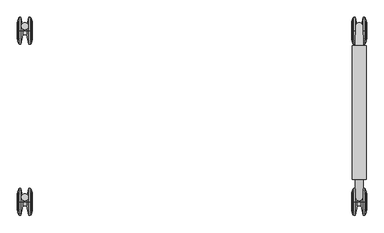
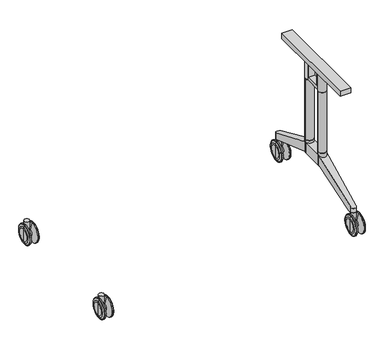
"""IFC4 building model written with IfcOpenShell, lengths in millimetres: furniture geometry, Furniture_Wilkhahn_614-00_TimetableShift : TIMETABLE SHIFT 614/00 1800L x 0900W."""

from ifc_helpers import new_model, si_unit, point, frame, frame_2d, origin, place, context, project, spatial, polyline, circle_curve, ellipse_curve, trimmed, segment, composite_curve, outline, extrude, source, transform, mapped, element, save
from ifc_brep_helpers import plane_surface, cylinder_surface, revolved_surface, advanced_brep


def furniture_f0da9923(model_context):
    return source(origin(), model_context, "Body", "SolidModel", [
        advanced_brep(
        [(652.500346, 204.1135107, 49.9999988), (652.500346, 204.1135107, 19.8683152), (652.500346, 204.1135107, 80.1316828), (597.5003238, 204.1135107, 19.8683152), (597.5003238, 204.1135107, 49.9999988), (597.5003238, 204.1135107, 80.1316828), (601.8165382, 204.1135107, 2.051318), (599.0398166, 204.1135107, 10.381507), (599.0398166, 204.1135107, 89.6184911), (601.8165382, 204.1135107, 97.9486801), (609.500318, 204.1135107, -1.2e-06), (604.6625889, 204.1135107, -1.2e-06), (604.6625889, 204.1135107, 99.9999992), (609.500318, 204.1135107, 99.9999992), (617.5003021, 204.1135107, 35.0000003), (617.5003021, 204.1135107, 64.9999978), (632.5003676, 204.1135107, 35.0000003), (632.5003676, 204.1135107, 64.9999978), (640.5003517, 204.1135107, -1.2e-06), (640.5003517, 204.1135107, 99.9999992), (645.3380808, 204.1135107, -1.2e-06), (645.3380808, 204.1135107, 99.9999992), (650.9608532, 204.1135107, 10.381507), (648.1841316, 204.1135107, 2.051318), (648.1841316, 204.1135107, 97.9486801), (650.9608532, 204.1135107, 89.6184911)],
        [
            (0, 1),
            (1, 2, circle_curve(frame((652.500346, 204.1135107, 49.999999), z_axis=(1.0, 0.0, 0.0), x_axis=(0.0, 0.0, 1.0)), 30.1316838)),
            (2, 0),
            (2, 1, circle_curve(frame((652.500346, 204.1135107, 49.999999), z_axis=(1.0, 0.0, 0.0), x_axis=(0.0, 0.0, 1.0)), 30.1316838)),
            (3, 4),
            (4, 5),
            (5, 3, circle_curve(frame((597.5003238, 204.1135107, 49.999999), z_axis=(-1.0, 0.0, 0.0), x_axis=(0.0, 0.0, 1.0)), 30.1316838)),
            (3, 5, circle_curve(frame((597.5003238, 204.1135107, 49.999999), z_axis=(-1.0, 0.0, 0.0), x_axis=(0.0, 0.0, 1.0)), 30.1316838)),
            (6, 7),
            (7, 8, circle_curve(frame((599.0398166, 204.1135107, 49.999999), z_axis=(1.0, 0.0, 0.0), x_axis=(0.0, 0.0, 1.0)), 39.618492)),
            (8, 9),
            (9, 6, circle_curve(frame((601.8165382, 204.1135107, 49.999999), z_axis=(-1.0, 0.0, 0.0), x_axis=(0.0, 0.0, 1.0)), 47.948681)),
            (8, 7, circle_curve(frame((599.0398166, 204.1135107, 49.999999), z_axis=(1.0, 0.0, 0.0), x_axis=(0.0, 0.0, 1.0)), 39.618492)),
            (6, 9, circle_curve(frame((601.8165382, 204.1135107, 49.999999), z_axis=(-1.0, 0.0, 0.0), x_axis=(0.0, 0.0, 1.0)), 47.948681)),
            (10, 11),
            (11, 12, circle_curve(frame((604.6625889, 204.1135107, 49.999999), z_axis=(1.0, 0.0, 0.0), x_axis=(0.0, 0.0, 1.0)), 50.0000002)),
            (12, 13),
            (13, 10, circle_curve(frame((609.500318, 204.1135107, 49.999999), z_axis=(-1.0, 0.0, 0.0), x_axis=(0.0, 0.0, 1.0)), 50.0000002)),
            (12, 11, circle_curve(frame((604.6625889, 204.1135107, 49.999999), z_axis=(1.0, 0.0, 0.0), x_axis=(0.0, 0.0, 1.0)), 50.0000002)),
            (10, 13, circle_curve(frame((609.500318, 204.1135107, 49.999999), z_axis=(-1.0, 0.0, 0.0), x_axis=(0.0, 0.0, 1.0)), 50.0000002)),
            (14, 10),
            (13, 15),
            (15, 14, circle_curve(frame((617.5003021, 204.1135107, 49.999999), z_axis=(-1.0, 0.0, 0.0), x_axis=(0.0, 0.0, 1.0)), 14.9999987)),
            (14, 15, circle_curve(frame((617.5003021, 204.1135107, 49.999999), z_axis=(-1.0, 0.0, 0.0), x_axis=(0.0, 0.0, 1.0)), 14.9999987)),
            (16, 14),
            (15, 17),
            (17, 16, circle_curve(frame((632.5003676, 204.1135107, 49.999999), z_axis=(-1.0, 0.0, 0.0), x_axis=(0.0, 0.0, 1.0)), 14.9999987)),
            (16, 17, circle_curve(frame((632.5003676, 204.1135107, 49.999999), z_axis=(-1.0, 0.0, 0.0), x_axis=(0.0, 0.0, 1.0)), 14.9999987)),
            (18, 16),
            (17, 19),
            (19, 18, circle_curve(frame((640.5003517, 204.1135107, 49.999999), z_axis=(-1.0, 0.0, 0.0), x_axis=(0.0, 0.0, 1.0)), 50.0000002)),
            (18, 19, circle_curve(frame((640.5003517, 204.1135107, 49.999999), z_axis=(-1.0, 0.0, 0.0), x_axis=(0.0, 0.0, 1.0)), 50.0000002)),
            (20, 18),
            (19, 21),
            (21, 20, circle_curve(frame((645.3380808, 204.1135107, 49.999999), z_axis=(-1.0, 0.0, 0.0), x_axis=(0.0, 0.0, 1.0)), 50.0000002)),
            (20, 21, circle_curve(frame((645.3380808, 204.1135107, 49.999999), z_axis=(-1.0, 0.0, 0.0), x_axis=(0.0, 0.0, 1.0)), 50.0000002)),
            (22, 23),
            (23, 24, circle_curve(frame((648.1841316, 204.1135107, 49.999999), z_axis=(1.0, 0.0, 0.0), x_axis=(0.0, 0.0, 1.0)), 47.948681)),
            (24, 25),
            (25, 22, circle_curve(frame((650.9608532, 204.1135107, 49.999999), z_axis=(-1.0, 0.0, 0.0), x_axis=(0.0, 0.0, 1.0)), 39.618492)),
            (24, 23, circle_curve(frame((648.1841316, 204.1135107, 49.999999), z_axis=(1.0, 0.0, 0.0), x_axis=(0.0, 0.0, 1.0)), 47.948681)),
            (22, 25, circle_curve(frame((650.9608532, 204.1135107, 49.999999), z_axis=(-1.0, 0.0, 0.0), x_axis=(0.0, 0.0, 1.0)), 39.618492)),
            (7, 3, circle_curve(frame((627.5003238, 204.1135107, 19.8683152), z_axis=(0.0, 1.0000000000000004, 0.0), x_axis=(-1.0000000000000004, 0.0, 0.0)), 30.0)),
            (5, 8, circle_curve(frame((627.5003238, 204.1135107, 80.1316828), z_axis=(0.0, 1.0000000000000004, 0.0), x_axis=(-1.0000000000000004, 0.0, 0.0)), 30.0)),
            (11, 6, circle_curve(frame((604.6625889, 204.1135107, 2.9999988), z_axis=(0.0, 1.0000000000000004, 0.0), x_axis=(-1.0000000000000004, 0.0, 0.0)), 3.0)),
            (9, 12, circle_curve(frame((604.6625889, 204.1135107, 96.9999992), z_axis=(0.0, 1.0000000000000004, 0.0), x_axis=(-1.0000000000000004, 0.0, 0.0)), 3.0)),
            (23, 20, circle_curve(frame((645.3380808, 204.1135107, 2.9999988), z_axis=(0.0, 1.0000000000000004, 0.0), x_axis=(-1.0000000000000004, 0.0, 0.0)), 3.0)),
            (21, 24, circle_curve(frame((645.3380808, 204.1135107, 96.9999992), z_axis=(0.0, 1.0000000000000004, 0.0), x_axis=(-1.0000000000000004, 0.0, 0.0)), 3.0)),
            (1, 22, circle_curve(frame((622.500346, 204.1135107, 19.8683152), z_axis=(0.0, 1.0000000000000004, 0.0), x_axis=(-1.0000000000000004, 0.0, 0.0)), 30.0)),
            (25, 2, circle_curve(frame((622.500346, 204.1135107, 80.1316828), z_axis=(0.0, 1.0000000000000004, 0.0), x_axis=(-1.0000000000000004, 0.0, 0.0)), 30.0)),
        ],
        [
            plane_surface(frame((652.500346, 204.1135107, 49.999999), z_axis=(1.0, 0.0, 0.0), x_axis=(0.0, 0.0, 1.0))),
            plane_surface(frame((597.5003238, 204.1135107, 49.999999), z_axis=(-1.0, 0.0, 0.0), x_axis=(0.0, 0.0, 1.0))),
            revolved_surface(polyline([(599.0398166, 204.1135107, 89.6184911), (601.8165382, 204.1135107, 97.9486801)]), (664.0660385, 204.1135107, 49.999999), (1.0000000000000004, 0.0, 0.0)),
            cylinder_surface(frame((664.0660385, 204.1135107, 49.999999), z_axis=(1.0000000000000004, 0.0, 0.0), x_axis=(0.0, 0.0, 1.0)), 50.0000002),
            revolved_surface(polyline([(609.500318, 204.1135107, 99.9999992), (617.5003021, 204.1135107, 64.9999978)]), (664.0660385, 204.1135107, 49.999999), (1.0000000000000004, 0.0, 0.0)),
            cylinder_surface(frame((664.0660385, 204.1135107, 49.999999), z_axis=(1.0000000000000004, 0.0, 0.0), x_axis=(0.0, 0.0, 1.0)), 14.9999987),
            revolved_surface(polyline([(632.5003676, 204.1135107, 64.9999978), (640.5003517, 204.1135107, 99.9999992)]), (664.0660385, 204.1135107, 49.999999), (1.0000000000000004, 0.0, 0.0)),
            revolved_surface(polyline([(648.1841316, 204.1135107, 97.9486801), (650.9608532, 204.1135107, 89.6184911)]), (664.0660385, 204.1135107, 49.999999), (1.0000000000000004, 0.0, 0.0)),
            revolved_surface(trimmed(ellipse_curve(frame((627.5003238, 204.1135107, 80.1316828), z_axis=(0.0, 1.0000000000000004, 0.0), x_axis=(-1.0000000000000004, 0.0, 0.0)), 30.0, 30.0), [point((597.5003238, 204.1135107, 80.1316828))], [point((599.0398166, 204.1135107, 89.6184911))], True, "CARTESIAN"), (664.0660385, 204.1135107, 49.999999), (1.0000000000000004, 0.0, 0.0)),
            revolved_surface(trimmed(ellipse_curve(frame((604.6625889, 204.1135107, 96.9999992), z_axis=(0.0, 1.0000000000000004, 0.0), x_axis=(-1.0000000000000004, 0.0, 0.0)), 3.0, 3.0), [point((601.8165382, 204.1135107, 97.9486801))], [point((604.6625889, 204.1135107, 99.9999992))], True, "CARTESIAN"), (664.0660385, 204.1135107, 49.999999), (1.0000000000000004, 0.0, 0.0)),
            revolved_surface(trimmed(ellipse_curve(frame((645.3380808, 204.1135107, 96.9999992), z_axis=(0.0, 1.0000000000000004, 0.0), x_axis=(-1.0000000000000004, 0.0, 0.0)), 3.0, 3.0), [point((645.3380808, 204.1135107, 99.9999992))], [point((648.1841316, 204.1135107, 97.9486801))], True, "CARTESIAN"), (664.0660385, 204.1135107, 49.999999), (1.0000000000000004, 0.0, 0.0)),
            revolved_surface(trimmed(ellipse_curve(frame((622.500346, 204.1135107, 80.1316828), z_axis=(0.0, 1.0000000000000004, 0.0), x_axis=(-1.0000000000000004, 0.0, 0.0)), 30.0, 30.0), [point((650.9608532, 204.1135107, 89.6184911))], [point((652.500346, 204.1135107, 80.1316828))], True, "CARTESIAN"), (664.0660385, 204.1135107, 49.999999), (1.0000000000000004, 0.0, 0.0)),
        ],
        [
            (0, [[1, 2, 3]]),
            (0, [[-3, 4, -1]]),
            (1, [[5, 6, 7]]),
            (1, [[-6, -5, 8]]),
            (2, [[9, 10, 11, 12]]),
            (2, [[-11, 13, -9, 14]]),
            (3, [[15, 16, 17, 18]]),
            (3, [[-17, 19, -15, 20]]),
            (4, [[21, -18, 22, 23]]),
            (4, [[-22, -20, -21, 24]]),
            (5, [[25, -23, 26, 27]]),
            (5, [[-26, -24, -25, 28]]),
            (6, [[29, -27, 30, 31]]),
            (6, [[-30, -28, -29, 32]]),
            (3, [[33, -31, 34, 35]]),
            (3, [[-34, -32, -33, 36]]),
            (7, [[37, 38, 39, 40]]),
            (7, [[-39, 41, -37, 42]]),
            (8, [[43, -7, 44, -10]]),
            (8, [[-44, -8, -43, -13]]),
            (9, [[45, -12, 46, -16]]),
            (9, [[-46, -14, -45, -19]]),
            (10, [[47, -35, 48, -38]]),
            (10, [[-48, -36, -47, -41]]),
            (11, [[49, -40, 50, -2]]),
            (11, [[-50, -42, -49, -4]]),
        ],
    ),
        extrude(outline(composite_curve([segment(trimmed(circle_curve(frame_2d((625.0003349, 221.5135103)), 13.1), [point((638.1003349, 221.5135103))], [point((611.9003349, 221.5135103))], False, "CARTESIAN"), True, "CONTINUOUS"), segment(trimmed(circle_curve(frame_2d((625.0003349, 221.5135103)), 13.1), [point((611.9003349, 221.5135103))], [point((638.1003349, 221.5135103))], False, "CARTESIAN"), True, "CONTINUOUS")], self_intersect=False)), frame((0.0, 0.0, 50.0), z_axis=(0.0, 0.0, 1.0), x_axis=(1.0, 0.0, 0.0)), (0.0, 0.0, 1.0), 55.0),
        advanced_brep(
        [(597.5003238, -436.9185854, 49.9999992), (597.5003238, -436.9185854, 80.1316828), (597.5003238, -436.9185854, 19.8683152), (652.500346, -436.9185854, 19.8683152), (652.500346, -436.9185854, 80.1316828), (652.500346, -436.9185854, 49.9999992), (648.1841316, -436.9185854, 2.051318), (648.1841316, -436.9185854, 97.9486801), (650.9608532, -436.9185854, 89.6184911), (650.9608532, -436.9185854, 10.381507), (640.5003517, -436.9185854, -1.2e-06), (640.5003517, -436.9185854, 99.9999992), (645.3380808, -436.9185854, 99.9999992), (645.3380808, -436.9185854, -1.2e-06), (632.5003676, -436.9185854, 35.0000003), (632.5003676, -436.9185854, 64.9999978), (617.5003021, -436.9185854, 35.0000003), (617.5003021, -436.9185854, 64.9999978), (609.500318, -436.9185854, -1.2e-06), (609.500318, -436.9185854, 99.9999992), (604.6625889, -436.9185854, -1.2e-06), (604.6625889, -436.9185854, 99.9999992), (599.0398166, -436.9185854, 10.381507), (599.0398166, -436.9185854, 89.6184911), (601.8165382, -436.9185854, 97.9486801), (601.8165382, -436.9185854, 2.051318)],
        [
            (0, 1),
            (1, 2, circle_curve(frame((597.5003238, -436.9185854, 49.999999), z_axis=(-1.0, 0.0, 0.0), x_axis=(0.0, 0.0, 1.0)), 30.1316838)),
            (2, 0),
            (2, 1, circle_curve(frame((597.5003238, -436.9185854, 49.999999), z_axis=(-1.0, 0.0, 0.0), x_axis=(0.0, 0.0, 1.0)), 30.1316838)),
            (3, 4, circle_curve(frame((652.500346, -436.9185854, 49.999999), z_axis=(1.0, 0.0, 0.0), x_axis=(0.0, 0.0, 1.0)), 30.1316838)),
            (4, 5),
            (5, 3),
            (4, 3, circle_curve(frame((652.500346, -436.9185854, 49.999999), z_axis=(1.0, 0.0, 0.0), x_axis=(0.0, 0.0, 1.0)), 30.1316838)),
            (6, 7, circle_curve(frame((648.1841316, -436.9185854, 49.999999), z_axis=(1.0, 0.0, 0.0), x_axis=(0.0, 0.0, 1.0)), 47.948681)),
            (7, 8),
            (8, 9, circle_curve(frame((650.9608532, -436.9185854, 49.999999), z_axis=(-1.0, 0.0, 0.0), x_axis=(0.0, 0.0, 1.0)), 39.618492)),
            (9, 6),
            (7, 6, circle_curve(frame((648.1841316, -436.9185854, 49.999999), z_axis=(1.0, 0.0, 0.0), x_axis=(0.0, 0.0, 1.0)), 47.948681)),
            (9, 8, circle_curve(frame((650.9608532, -436.9185854, 49.999999), z_axis=(-1.0, 0.0, 0.0), x_axis=(0.0, 0.0, 1.0)), 39.618492)),
            (10, 11, circle_curve(frame((640.5003517, -436.9185854, 49.999999), z_axis=(1.0, 0.0, 0.0), x_axis=(0.0, 0.0, 1.0)), 50.0000002)),
            (11, 12),
            (12, 13, circle_curve(frame((645.3380808, -436.9185854, 49.999999), z_axis=(-1.0, 0.0, 0.0), x_axis=(0.0, 0.0, 1.0)), 50.0000002)),
            (13, 10),
            (11, 10, circle_curve(frame((640.5003517, -436.9185854, 49.999999), z_axis=(1.0, 0.0, 0.0), x_axis=(0.0, 0.0, 1.0)), 50.0000002)),
            (13, 12, circle_curve(frame((645.3380808, -436.9185854, 49.999999), z_axis=(-1.0, 0.0, 0.0), x_axis=(0.0, 0.0, 1.0)), 50.0000002)),
            (14, 15, circle_curve(frame((632.5003676, -436.9185854, 49.999999), z_axis=(1.0, 0.0, 0.0), x_axis=(0.0, 0.0, 1.0)), 14.9999987)),
            (15, 11),
            (10, 14),
            (15, 14, circle_curve(frame((632.5003676, -436.9185854, 49.999999), z_axis=(1.0, 0.0, 0.0), x_axis=(0.0, 0.0, 1.0)), 14.9999987)),
            (16, 17, circle_curve(frame((617.5003021, -436.9185854, 49.999999), z_axis=(1.0, 0.0, 0.0), x_axis=(0.0, 0.0, 1.0)), 14.9999987)),
            (17, 15),
            (14, 16),
            (17, 16, circle_curve(frame((617.5003021, -436.9185854, 49.999999), z_axis=(1.0, 0.0, 0.0), x_axis=(0.0, 0.0, 1.0)), 14.9999987)),
            (18, 19, circle_curve(frame((609.500318, -436.9185854, 49.999999), z_axis=(1.0, 0.0, 0.0), x_axis=(0.0, 0.0, 1.0)), 50.0000002)),
            (19, 17),
            (16, 18),
            (19, 18, circle_curve(frame((609.500318, -436.9185854, 49.999999), z_axis=(1.0, 0.0, 0.0), x_axis=(0.0, 0.0, 1.0)), 50.0000002)),
            (20, 21, circle_curve(frame((604.6625889, -436.9185854, 49.999999), z_axis=(1.0, 0.0, 0.0), x_axis=(0.0, 0.0, 1.0)), 50.0000002)),
            (21, 19),
            (18, 20),
            (21, 20, circle_curve(frame((604.6625889, -436.9185854, 49.999999), z_axis=(1.0, 0.0, 0.0), x_axis=(0.0, 0.0, 1.0)), 50.0000002)),
            (22, 23, circle_curve(frame((599.0398166, -436.9185854, 49.999999), z_axis=(1.0, 0.0, 0.0), x_axis=(0.0, 0.0, 1.0)), 39.618492)),
            (23, 24),
            (24, 25, circle_curve(frame((601.8165382, -436.9185854, 49.999999), z_axis=(-1.0, 0.0, 0.0), x_axis=(0.0, 0.0, 1.0)), 47.948681)),
            (25, 22),
            (23, 22, circle_curve(frame((599.0398166, -436.9185854, 49.999999), z_axis=(1.0, 0.0, 0.0), x_axis=(0.0, 0.0, 1.0)), 39.618492)),
            (25, 24, circle_curve(frame((601.8165382, -436.9185854, 49.999999), z_axis=(-1.0, 0.0, 0.0), x_axis=(0.0, 0.0, 1.0)), 47.948681)),
            (8, 4, circle_curve(frame((622.500346, -436.9185854, 80.1316828), z_axis=(0.0, 1.0, 0.0), x_axis=(1.0, 0.0, 0.0)), 30.0)),
            (3, 9, circle_curve(frame((622.500346, -436.9185854, 19.8683152), z_axis=(0.0, 1.0, 0.0), x_axis=(1.0, 0.0, 0.0)), 30.0)),
            (12, 7, circle_curve(frame((645.3380808, -436.9185854, 96.9999992), z_axis=(0.0, 1.0, 0.0), x_axis=(1.0, 0.0, 0.0)), 3.0)),
            (6, 13, circle_curve(frame((645.3380808, -436.9185854, 2.9999988), z_axis=(0.0, 1.0, 0.0), x_axis=(1.0, 0.0, 0.0)), 3.0)),
            (24, 21, circle_curve(frame((604.6625889, -436.9185854, 96.9999992), z_axis=(0.0, 1.0, 0.0), x_axis=(1.0, 0.0, 0.0)), 3.0)),
            (20, 25, circle_curve(frame((604.6625889, -436.9185854, 2.9999988), z_axis=(0.0, 1.0, 0.0), x_axis=(1.0, 0.0, 0.0)), 3.0)),
            (1, 23, circle_curve(frame((627.5003238, -436.9185854, 80.1316828), z_axis=(0.0, 1.0, 0.0), x_axis=(1.0, 0.0, 0.0)), 30.0)),
            (22, 2, circle_curve(frame((627.5003238, -436.9185854, 19.8683152), z_axis=(0.0, 1.0, 0.0), x_axis=(1.0, 0.0, 0.0)), 30.0)),
        ],
        [
            plane_surface(frame((597.5003238, -436.9185854, 49.999999), z_axis=(-1.0, 0.0, 0.0), x_axis=(0.0, 0.0, 1.0))),
            plane_surface(frame((652.500346, -436.9185854, 49.999999), z_axis=(1.0, 0.0, 0.0), x_axis=(0.0, 0.0, 1.0))),
            revolved_surface(polyline([(650.9608532, -436.9185854, 89.6184911), (648.1841316, -436.9185854, 97.9486801)]), (585.9346312, -436.9185854, 49.999999), (-1.0, 0.0, 0.0)),
            cylinder_surface(frame((585.9346312, -436.9185854, 49.999999), z_axis=(-1.0, 0.0, 0.0), x_axis=(0.0, 0.0, 1.0)), 50.0000002),
            revolved_surface(polyline([(640.5003517, -436.9185854, 99.9999992), (632.5003676, -436.9185854, 64.9999978)]), (585.9346312, -436.9185854, 49.999999), (-1.0, 0.0, 0.0)),
            cylinder_surface(frame((585.9346312, -436.9185854, 49.999999), z_axis=(-1.0, 0.0, 0.0), x_axis=(0.0, 0.0, 1.0)), 14.9999987),
            revolved_surface(polyline([(617.5003021, -436.9185854, 64.9999978), (609.500318, -436.9185854, 99.9999992)]), (585.9346312, -436.9185854, 49.999999), (-1.0, 0.0, 0.0)),
            revolved_surface(polyline([(601.8165382, -436.9185854, 97.9486801), (599.0398166, -436.9185854, 89.6184911)]), (585.9346312, -436.9185854, 49.999999), (-1.0, 0.0, 0.0)),
            revolved_surface(trimmed(ellipse_curve(frame((622.500346, -436.9185854, 80.1316828), z_axis=(0.0, -1.0, 0.0), x_axis=(1.0, 0.0, 0.0)), 30.0, 30.0), [point((652.500346, -436.9185854, 80.1316828))], [point((650.9608532, -436.9185854, 89.6184911))], True, "CARTESIAN"), (585.9346312, -436.9185854, 49.999999), (-1.0, 0.0, 0.0)),
            revolved_surface(trimmed(ellipse_curve(frame((645.3380808, -436.9185854, 96.9999992), z_axis=(0.0, -1.0, 0.0), x_axis=(1.0, 0.0, 0.0)), 3.0, 3.0), [point((648.1841316, -436.9185854, 97.9486801))], [point((645.3380808, -436.9185854, 99.9999992))], True, "CARTESIAN"), (585.9346312, -436.9185854, 49.999999), (-1.0, 0.0, 0.0)),
            revolved_surface(trimmed(ellipse_curve(frame((604.6625889, -436.9185854, 96.9999992), z_axis=(0.0, -1.0, 0.0), x_axis=(1.0, 0.0, 0.0)), 3.0, 3.0), [point((604.6625889, -436.9185854, 99.9999992))], [point((601.8165382, -436.9185854, 97.9486801))], True, "CARTESIAN"), (585.9346312, -436.9185854, 49.999999), (-1.0, 0.0, 0.0)),
            revolved_surface(trimmed(ellipse_curve(frame((627.5003238, -436.9185854, 80.1316828), z_axis=(0.0, -1.0, 0.0), x_axis=(1.0, 0.0, 0.0)), 30.0, 30.0), [point((599.0398166, -436.9185854, 89.6184911))], [point((597.5003238, -436.9185854, 80.1316828))], True, "CARTESIAN"), (585.9346312, -436.9185854, 49.999999), (-1.0, 0.0, 0.0)),
        ],
        [
            (0, [[1, 2, 3]]),
            (0, [[-3, 4, -1]]),
            (1, [[5, 6, 7]]),
            (1, [[8, -7, -6]]),
            (2, [[9, 10, 11, 12]]),
            (2, [[13, -12, 14, -10]]),
            (3, [[15, 16, 17, 18]]),
            (3, [[19, -18, 20, -16]]),
            (4, [[21, 22, -15, 23]]),
            (4, [[24, -23, -19, -22]]),
            (5, [[25, 26, -21, 27]]),
            (5, [[28, -27, -24, -26]]),
            (6, [[29, 30, -25, 31]]),
            (6, [[32, -31, -28, -30]]),
            (3, [[33, 34, -29, 35]]),
            (3, [[36, -35, -32, -34]]),
            (7, [[37, 38, 39, 40]]),
            (7, [[41, -40, 42, -38]]),
            (8, [[-11, 43, -5, 44]]),
            (8, [[-14, -44, -8, -43]]),
            (9, [[-17, 45, -9, 46]]),
            (9, [[-20, -46, -13, -45]]),
            (10, [[-39, 47, -33, 48]]),
            (10, [[-42, -48, -36, -47]]),
            (11, [[-2, 49, -37, 50]]),
            (11, [[-4, -50, -41, -49]]),
        ],
    ),
        extrude(outline(composite_curve([segment(trimmed(circle_curve(frame_2d((625.0003349, -419.5185858)), 13.1), [point((611.9003349, -419.5185858))], [point((638.1003349, -419.5185858))], False, "CARTESIAN"), True, "CONTINUOUS"), segment(trimmed(circle_curve(frame_2d((625.0003349, -419.5185858)), 13.1), [point((638.1003349, -419.5185858))], [point((611.9003349, -419.5185858))], False, "CARTESIAN"), True, "CONTINUOUS")], self_intersect=False)), frame((0.0, 0.0, 50.0), z_axis=(0.0, 0.0, 1.0), x_axis=(1.0, 0.0, 0.0)), (0.0, 0.0, 1.0), 55.0),
        extrude(outline(composite_curve([segment(trimmed(circle_curve(frame_2d((625.0, -154.0488451)), 20.0), [point((605.0, -154.0488451))], [point((645.0, -154.0488451))], False, "CARTESIAN"), True, "CONTINUOUS"), segment(trimmed(circle_curve(frame_2d((625.0, -154.0488451)), 20.0), [point((645.0, -154.0488451))], [point((605.0, -154.0488451))], False, "CARTESIAN"), True, "CONTINUOUS")], self_intersect=False)), frame((0.0, 0.0, 193.3080085), z_axis=(0.0, 0.0, 1.0), x_axis=(1.0, 0.0, 0.0)), (0.0, 0.0, 1.0), 68.8536941),
        extrude(outline(composite_curve([segment(trimmed(circle_curve(frame_2d((625.0, -44.0488461)), 20.0), [point((605.0, -44.0488461))], [point((645.0, -44.0488461))], False, "CARTESIAN"), True, "CONTINUOUS"), segment(trimmed(circle_curve(frame_2d((625.0, -44.0488461)), 20.0), [point((645.0, -44.0488461))], [point((605.0, -44.0488461))], False, "CARTESIAN"), True, "CONTINUOUS")], self_intersect=False)), frame((0.0, 0.0, 193.3080085), z_axis=(0.0, 0.0, 1.0), x_axis=(1.0, 0.0, 0.0)), (0.0, 0.0, 1.0), 68.8536941),
        extrude(outline(composite_curve([segment(trimmed(circle_curve(frame_2d((625.0, -154.0488451)), 20.0), [point((605.0, -154.0488451))], [point((645.0, -154.0488451))], False, "CARTESIAN"), True, "CONTINUOUS"), segment(trimmed(circle_curve(frame_2d((625.0, -154.0488451)), 20.0), [point((645.0, -154.0488451))], [point((605.0, -154.0488451))], False, "CARTESIAN"), True, "CONTINUOUS")], self_intersect=False)), frame((0.0, 0.0, 262.1617027), z_axis=(0.0, 0.0, 1.0), x_axis=(1.0, 0.0, 0.0)), (0.0, 0.0, 1.0), 317.8382973),
        extrude(outline(composite_curve([segment(trimmed(circle_curve(frame_2d((625.0, -44.0488461)), 20.0), [point((605.0, -44.0488461))], [point((645.0, -44.0488461))], False, "CARTESIAN"), True, "CONTINUOUS"), segment(trimmed(circle_curve(frame_2d((625.0, -44.0488461)), 20.0), [point((645.0, -44.0488461))], [point((605.0, -44.0488461))], False, "CARTESIAN"), True, "CONTINUOUS")], self_intersect=False)), frame((0.0, 0.0, 262.1617027), z_axis=(0.0, 0.0, 1.0), x_axis=(1.0, 0.0, 0.0)), (0.0, 0.0, 1.0), 317.8382973),
        extrude(outline(polyline([(651.0000118, 147.9511612), (651.0000118, -352.0488426), (598.9999882, -352.0488426), (598.9999882, 147.9511612), (651.0000118, 147.9511612)])), frame((0.0, 0.0, 676.0000168), z_axis=(0.0, 0.0, 1.0), x_axis=(1.0, 0.0, 0.0)), (0.0, 0.0, 1.0), 27.9999624),
        advanced_brep(
        [(610.0001238, -140.8200278, 676.0000168), (640.0001095, -140.8201331, 676.0000168), (640.0001095, -134.0488456, 676.0000168), (610.0001238, -134.0488456, 676.0000168), (640.0001095, -57.2775581, 676.0000168), (610.0001238, -57.2776634, 676.0000168), (610.0001238, -64.0488456, 676.0000168), (640.0001095, -64.0488456, 676.0000168), (610.0001238, -57.2776634, 580.0), (640.0001095, -57.2775581, 580.0), (640.0001095, -140.8201331, 580.0), (610.0001238, -140.8200278, 580.0), (610.0001238, -134.0488456, 598.0000176), (610.0001238, -64.0488456, 598.0000176), (640.0001095, -64.0488456, 598.0000176), (640.0001095, -134.0488456, 598.0000176)],
        [
            (0, 1, circle_curve(frame((625.0000702, -154.0488451, 676.0000168), z_axis=(0.0, 0.0, 1.0), x_axis=(1.0, 0.0, 0.0)), 20.0)),
            (1, 2),
            (2, 3),
            (3, 0),
            (4, 5, circle_curve(frame((625.0000702, -44.0488461, 676.0000168), z_axis=(0.0, 0.0, 1.0), x_axis=(1.0, 0.0, 0.0)), 20.0)),
            (5, 6),
            (6, 7),
            (7, 4),
            (8, 9, circle_curve(frame((625.0000702, -44.0488461, 580.0), z_axis=(0.0, 0.0, -1.0), x_axis=(1.0, 0.0, 0.0)), 20.0)),
            (9, 10),
            (10, 11, circle_curve(frame((625.0000702, -154.0488451, 580.0), z_axis=(0.0, 0.0, -1.0), x_axis=(1.0, 0.0, 0.0)), 20.0)),
            (11, 8),
            (11, 0),
            (3, 12),
            (12, 13),
            (13, 6),
            (5, 8),
            (10, 1),
            (9, 4),
            (7, 14),
            (14, 15),
            (15, 2),
            (15, 12),
            (14, 13),
        ],
        [
            plane_surface(frame((610.0001238, -140.8200278, 676.0000168), z_axis=(0.0, 0.0, 1.0), x_axis=(0.0, -1.0, 0.0))),
            plane_surface(frame((610.0001238, -140.8200278, 580.0), z_axis=(0.0, 0.0, -1.0), x_axis=(0.0, 1.0, 0.0))),
            plane_surface(frame((610.0001238, -57.2776634, 676.0000168), z_axis=(-1.0, 0.0, 0.0), x_axis=(0.0, 0.0, -1.0))),
            cylinder_surface(frame((625.0000702, -154.0488451, 580.0), z_axis=(0.0, 0.0, 1.0), x_axis=(1.0, 0.0, 0.0)), 20.0),
            plane_surface(frame((640.0001095, -140.8201331, 676.0000168), z_axis=(1.0, 0.0, 0.0), x_axis=(0.0, 0.0, -1.0))),
            cylinder_surface(frame((625.0000702, -44.0488461, 580.0), z_axis=(0.0, 0.0, 1.0), x_axis=(1.0, 0.0, 0.0)), 20.0),
            plane_surface(frame((640.0001095, -134.0488456, 676.0000168), z_axis=(0.0, 1.0, 0.0), x_axis=(-1.0, 0.0, 0.0))),
            plane_surface(frame((640.0001095, -134.0488456, 598.0000176), z_axis=(0.0, 0.0, 1.0), x_axis=(-1.0, 0.0, 0.0))),
            plane_surface(frame((640.0001095, -64.0488456, 598.0000176), z_axis=(0.0, -1.0, 0.0), x_axis=(-1.0, 0.0, 0.0))),
        ],
        [
            (0, [[1, 2, 3, 4]]),
            (0, [[5, 6, 7, 8]]),
            (1, [[9, 10, 11, 12]]),
            (2, [[-12, 13, -4, 14, 15, 16, -6, 17]]),
            (3, [[-1, -13, -11, 18]]),
            (4, [[-10, 19, -8, 20, 21, 22, -2, -18]]),
            (5, [[-5, -19, -9, -17]]),
            (6, [[23, -14, -3, -22]]),
            (7, [[-23, -21, 24, -15]]),
            (8, [[-24, -20, -7, -16]]),
        ],
    ),
        advanced_brep(
        [(638.4728951, 208.4135103, 105.0), (611.527103, 208.4135103, 105.0), (611.8737706, 221.8222582, 105.0), (638.1262294, 221.8222564, 105.0), (611.8737706, 221.8222582, 133.4205559), (604.9999818, -44.0488461, 248.3080085), (644.9999818, -44.0488461, 248.3080085), (638.1262294, 221.8222564, 133.4205567), (644.7999588, -36.3121196, 193.3080085), (605.2000059, -36.3121196, 193.3080085), (638.1262294, -419.9199475, 133.4205567), (644.9999818, -154.0488451, 248.3080085), (604.9999818, -154.0488451, 248.3080085), (611.8737706, -419.9199493, 133.4205559), (638.1262294, -419.9199475, 105.0), (638.4728951, -406.5112014, 105.0), (644.7999588, -161.7855715, 193.3080085), (644.9999818, -154.0488451, 193.3080085), (611.8737706, -419.9199493, 105.0), (604.9999818, -154.0488451, 193.3080085), (605.2000059, -161.7855715, 193.3080085), (611.527103, -406.5112014, 105.0), (604.9999818, -44.0488461, 193.3080085), (644.9999818, -44.0488461, 193.3080085)],
        [
            (0, 1),
            (1, 2),
            (2, 3, circle_curve(frame((625.0, 221.4828948, 105.0), z_axis=(0.0, 0.0, -1.0), x_axis=(1.0, 0.0, 0.0)), 13.1306156)),
            (3, 0),
            (4, 5),
            (5, 6),
            (6, 7),
            (7, 4, ellipse_curve(frame((625.0, 221.4828948, 133.5672007), z_axis=(0.0, 0.3966672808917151, 0.9179624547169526), x_axis=(0.0, 0.9179624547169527, -0.39666728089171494)), 14.3040878, 13.1306156)),
            (0, 8),
            (8, 9),
            (9, 1),
            (10, 11),
            (11, 12),
            (12, 13),
            (13, 10, ellipse_curve(frame((625.0, -419.5805859, 133.5672007), z_axis=(0.0, -0.3966672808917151, 0.9179624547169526), x_axis=(0.0, -0.9179624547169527, -0.39666728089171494)), 14.3040878, 13.1306156)),
            (10, 14),
            (14, 15),
            (15, 16),
            (16, 17),
            (17, 11),
            (13, 18),
            (18, 14, circle_curve(frame((625.0, -419.5805859, 105.0), z_axis=(0.0, 0.0, 1.0), x_axis=(1.0, 0.0, 0.0)), 13.1306156)),
            (12, 19),
            (19, 20),
            (20, 21),
            (21, 18),
            (4, 2),
            (9, 22),
            (22, 5),
            (7, 3),
            (6, 23),
            (23, 8),
            (21, 15),
            (20, 16),
            (11, 6),
            (5, 12),
            (22, 19),
            (17, 23),
        ],
        [
            plane_surface(frame((646.3794585, 208.4135103, 105.0), z_axis=(0.0, 0.0, -1.0), x_axis=(-1.0, 0.0, 0.0))),
            plane_surface(frame((646.3794585, 235.9511544, 127.3152182), z_axis=(0.0, 0.3966672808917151, 0.9179624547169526), x_axis=(-1.0, 0.0, 0.0))),
            plane_surface(frame((646.3794585, -36.3121196, 193.3080085), z_axis=(0.0, -0.3394229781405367, -0.9406338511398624), x_axis=(-1.0, 0.0, 0.0))),
            plane_surface(frame((646.3794585, -154.0488451, 248.3080085), z_axis=(0.0, -0.3966672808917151, 0.9179624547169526), x_axis=(-1.0, 0.0, 0.0))),
            plane_surface(frame((644.9999818, -154.0488451, 249.0000084), z_axis=(0.9996659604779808, -0.025845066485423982, 0.0), x_axis=(0.0, 0.0, -1.0))),
            cylinder_surface(frame((625.0, -419.5805859, 90.0000025), z_axis=(0.0, 0.0, -1.0), x_axis=(1.0, 0.0, 0.0)), 13.1306156),
            plane_surface(frame((611.8737706, -419.9199493, 249.0000084), z_axis=(-0.9996659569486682, -0.025845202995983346, 0.0), x_axis=(0.0, 0.0, -1.0))),
            plane_surface(frame((604.9999818, -44.0488461, 249.0000084), z_axis=(-0.9996659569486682, 0.025845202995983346, 0.0), x_axis=(0.0, 0.0, -1.0))),
            cylinder_surface(frame((625.0, 221.4828948, 0.0), z_axis=(0.0, 0.0, -1.0), x_axis=(1.0, 0.0, 0.0)), 13.1306156),
            plane_surface(frame((638.1262294, 221.8222564, 249.0000084), z_axis=(0.9996659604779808, 0.025845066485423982, 0.0), x_axis=(0.0, 0.0, -1.0))),
            plane_surface(frame((646.3794585, -434.0488456, 105.0), z_axis=(0.0, 0.0, -1.0), x_axis=(-1.0, 0.0, 0.0))),
            plane_surface(frame((646.3794585, -406.5112014, 105.0), z_axis=(0.0, 0.3394229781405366, -0.9406338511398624), x_axis=(-1.0, 0.0, 0.0))),
            plane_surface(frame((644.9999818, -44.0488461, 248.3080085), z_axis=(0.0, 0.0, 1.0), x_axis=(0.0, 1.0, 0.0))),
            plane_surface(frame((604.9999818, -44.0488461, 248.3080085), z_axis=(-1.0, 0.0, 0.0), x_axis=(0.0, 0.0, -1.0))),
            plane_surface(frame((644.9999818, -154.0488451, 248.3080085), z_axis=(1.0, 0.0, 0.0), x_axis=(0.0, 0.0, -1.0))),
            plane_surface(frame((646.3794585, -44.0488461, 193.3080085), z_axis=(0.0, 0.0, -1.0), x_axis=(-1.0, 0.0, 0.0))),
        ],
        [
            (0, [[1, 2, 3, 4]]),
            (1, [[5, 6, 7, 8]]),
            (2, [[-1, 9, 10, 11]]),
            (3, [[12, 13, 14, 15]]),
            (4, [[16, 17, 18, 19, 20, -12]]),
            (5, [[-16, -15, 21, 22]]),
            (6, [[-21, -14, 23, 24, 25, 26]]),
            (7, [[27, -2, -11, 28, 29, -5]]),
            (8, [[-27, -8, 30, -3]]),
            (9, [[-30, -7, 31, 32, -9, -4]]),
            (10, [[33, -17, -22, -26]]),
            (11, [[-33, -25, 34, -18]]),
            (12, [[35, -6, 36, -13]]),
            (13, [[-36, -29, 37, -23]]),
            (14, [[-35, -20, 38, -31]]),
            (15, [[-10, -32, -38, -19, -34, -24, -37, -28]]),
        ],
    ),
        advanced_brep(
        [(-597.499654, 204.1135107, 49.9999988), (-597.499654, 204.1135107, 19.8683152), (-597.499654, 204.1135107, 80.1316828), (-652.4996762, 204.1135107, 19.8683152), (-652.4996762, 204.1135107, 49.9999988), (-652.4996762, 204.1135107, 80.1316828), (-648.1834618, 204.1135107, 2.051318), (-650.9601834, 204.1135107, 10.381507), (-650.9601834, 204.1135107, 89.6184911), (-648.1834618, 204.1135107, 97.9486801), (-640.499682, 204.1135107, -1.2e-06), (-645.3374111, 204.1135107, -1.2e-06), (-645.3374111, 204.1135107, 99.9999992), (-640.499682, 204.1135107, 99.9999992), (-632.4996979, 204.1135107, 35.0000003), (-632.4996979, 204.1135107, 64.9999978), (-617.4996324, 204.1135107, 35.0000003), (-617.4996324, 204.1135107, 64.9999978), (-609.4996483, 204.1135107, -1.2e-06), (-609.4996483, 204.1135107, 99.9999992), (-604.6619192, 204.1135107, -1.2e-06), (-604.6619192, 204.1135107, 99.9999992), (-599.0391468, 204.1135107, 10.381507), (-601.8158684, 204.1135107, 2.051318), (-601.8158684, 204.1135107, 97.9486801), (-599.0391468, 204.1135107, 89.6184911)],
        [
            (0, 1),
            (1, 2, circle_curve(frame((-597.499654, 204.1135107, 49.999999), z_axis=(1.0, 0.0, 0.0), x_axis=(0.0, 0.0, 1.0)), 30.1316838)),
            (2, 0),
            (2, 1, circle_curve(frame((-597.499654, 204.1135107, 49.999999), z_axis=(1.0, 0.0, 0.0), x_axis=(0.0, 0.0, 1.0)), 30.1316838)),
            (3, 4),
            (4, 5),
            (5, 3, circle_curve(frame((-652.4996762, 204.1135107, 49.999999), z_axis=(-1.0, 0.0, 0.0), x_axis=(0.0, 0.0, 1.0)), 30.1316838)),
            (3, 5, circle_curve(frame((-652.4996762, 204.1135107, 49.999999), z_axis=(-1.0, 0.0, 0.0), x_axis=(0.0, 0.0, 1.0)), 30.1316838)),
            (6, 7),
            (7, 8, circle_curve(frame((-650.9601834, 204.1135107, 49.999999), z_axis=(1.0, 0.0, 0.0), x_axis=(0.0, 0.0, 1.0)), 39.618492)),
            (8, 9),
            (9, 6, circle_curve(frame((-648.1834618, 204.1135107, 49.999999), z_axis=(-1.0, 0.0, 0.0), x_axis=(0.0, 0.0, 1.0)), 47.948681)),
            (8, 7, circle_curve(frame((-650.9601834, 204.1135107, 49.999999), z_axis=(1.0, 0.0, 0.0), x_axis=(0.0, 0.0, 1.0)), 39.618492)),
            (6, 9, circle_curve(frame((-648.1834618, 204.1135107, 49.999999), z_axis=(-1.0, 0.0, 0.0), x_axis=(0.0, 0.0, 1.0)), 47.948681)),
            (10, 11),
            (11, 12, circle_curve(frame((-645.3374111, 204.1135107, 49.999999), z_axis=(1.0, 0.0, 0.0), x_axis=(0.0, 0.0, 1.0)), 50.0000002)),
            (12, 13),
            (13, 10, circle_curve(frame((-640.499682, 204.1135107, 49.999999), z_axis=(-1.0, 0.0, 0.0), x_axis=(0.0, 0.0, 1.0)), 50.0000002)),
            (12, 11, circle_curve(frame((-645.3374111, 204.1135107, 49.999999), z_axis=(1.0, 0.0, 0.0), x_axis=(0.0, 0.0, 1.0)), 50.0000002)),
            (10, 13, circle_curve(frame((-640.499682, 204.1135107, 49.999999), z_axis=(-1.0, 0.0, 0.0), x_axis=(0.0, 0.0, 1.0)), 50.0000002)),
            (14, 10),
            (13, 15),
            (15, 14, circle_curve(frame((-632.4996979, 204.1135107, 49.999999), z_axis=(-1.0, 0.0, 0.0), x_axis=(0.0, 0.0, 1.0)), 14.9999987)),
            (14, 15, circle_curve(frame((-632.4996979, 204.1135107, 49.999999), z_axis=(-1.0, 0.0, 0.0), x_axis=(0.0, 0.0, 1.0)), 14.9999987)),
            (16, 14),
            (15, 17),
            (17, 16, circle_curve(frame((-617.4996324, 204.1135107, 49.999999), z_axis=(-1.0, 0.0, 0.0), x_axis=(0.0, 0.0, 1.0)), 14.9999987)),
            (16, 17, circle_curve(frame((-617.4996324, 204.1135107, 49.999999), z_axis=(-1.0, 0.0, 0.0), x_axis=(0.0, 0.0, 1.0)), 14.9999987)),
            (18, 16),
            (17, 19),
            (19, 18, circle_curve(frame((-609.4996483, 204.1135107, 49.999999), z_axis=(-1.0, 0.0, 0.0), x_axis=(0.0, 0.0, 1.0)), 50.0000002)),
            (18, 19, circle_curve(frame((-609.4996483, 204.1135107, 49.999999), z_axis=(-1.0, 0.0, 0.0), x_axis=(0.0, 0.0, 1.0)), 50.0000002)),
            (20, 18),
            (19, 21),
            (21, 20, circle_curve(frame((-604.6619192, 204.1135107, 49.999999), z_axis=(-1.0, 0.0, 0.0), x_axis=(0.0, 0.0, 1.0)), 50.0000002)),
            (20, 21, circle_curve(frame((-604.6619192, 204.1135107, 49.999999), z_axis=(-1.0, 0.0, 0.0), x_axis=(0.0, 0.0, 1.0)), 50.0000002)),
            (22, 23),
            (23, 24, circle_curve(frame((-601.8158684, 204.1135107, 49.999999), z_axis=(1.0, 0.0, 0.0), x_axis=(0.0, 0.0, 1.0)), 47.948681)),
            (24, 25),
            (25, 22, circle_curve(frame((-599.0391468, 204.1135107, 49.999999), z_axis=(-1.0, 0.0, 0.0), x_axis=(0.0, 0.0, 1.0)), 39.618492)),
            (24, 23, circle_curve(frame((-601.8158684, 204.1135107, 49.999999), z_axis=(1.0, 0.0, 0.0), x_axis=(0.0, 0.0, 1.0)), 47.948681)),
            (22, 25, circle_curve(frame((-599.0391468, 204.1135107, 49.999999), z_axis=(-1.0, 0.0, 0.0), x_axis=(0.0, 0.0, 1.0)), 39.618492)),
            (7, 3, circle_curve(frame((-622.4996762, 204.1135107, 19.8683152), z_axis=(0.0, 1.0000000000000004, 0.0), x_axis=(-1.0000000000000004, 0.0, 0.0)), 30.0)),
            (5, 8, circle_curve(frame((-622.4996762, 204.1135107, 80.1316828), z_axis=(0.0, 1.0000000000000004, 0.0), x_axis=(-1.0000000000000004, 0.0, 0.0)), 30.0)),
            (11, 6, circle_curve(frame((-645.3374111, 204.1135107, 2.9999988), z_axis=(0.0, 1.0000000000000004, 0.0), x_axis=(-1.0000000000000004, 0.0, 0.0)), 3.0)),
            (9, 12, circle_curve(frame((-645.3374111, 204.1135107, 96.9999992), z_axis=(0.0, 1.0000000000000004, 0.0), x_axis=(-1.0000000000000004, 0.0, 0.0)), 3.0)),
            (23, 20, circle_curve(frame((-604.6619192, 204.1135107, 2.9999988), z_axis=(0.0, 1.0000000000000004, 0.0), x_axis=(-1.0000000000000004, 0.0, 0.0)), 3.0)),
            (21, 24, circle_curve(frame((-604.6619192, 204.1135107, 96.9999992), z_axis=(0.0, 1.0000000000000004, 0.0), x_axis=(-1.0000000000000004, 0.0, 0.0)), 3.0)),
            (1, 22, circle_curve(frame((-627.499654, 204.1135107, 19.8683152), z_axis=(0.0, 1.0000000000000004, 0.0), x_axis=(-1.0000000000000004, 0.0, 0.0)), 30.0)),
            (25, 2, circle_curve(frame((-627.499654, 204.1135107, 80.1316828), z_axis=(0.0, 1.0000000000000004, 0.0), x_axis=(-1.0000000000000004, 0.0, 0.0)), 30.0)),
        ],
        [
            plane_surface(frame((-597.499654, 204.1135107, 49.999999), z_axis=(1.0, 0.0, 0.0), x_axis=(0.0, 0.0, 1.0))),
            plane_surface(frame((-652.4996762, 204.1135107, 49.999999), z_axis=(-1.0, 0.0, 0.0), x_axis=(0.0, 0.0, 1.0))),
            revolved_surface(polyline([(-650.9601834, 204.1135107, 89.6184911), (-648.1834618, 204.1135107, 97.9486801)]), (-585.9339615, 204.1135107, 49.999999), (1.0000000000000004, 0.0, 0.0)),
            cylinder_surface(frame((-585.9339615, 204.1135107, 49.999999), z_axis=(1.0000000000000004, 0.0, 0.0), x_axis=(0.0, 0.0, 1.0)), 50.0000002),
            revolved_surface(polyline([(-640.499682, 204.1135107, 99.9999992), (-632.4996979, 204.1135107, 64.9999978)]), (-585.9339615, 204.1135107, 49.999999), (1.0000000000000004, 0.0, 0.0)),
            cylinder_surface(frame((-585.9339615, 204.1135107, 49.999999), z_axis=(1.0000000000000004, 0.0, 0.0), x_axis=(0.0, 0.0, 1.0)), 14.9999987),
            revolved_surface(polyline([(-617.4996324, 204.1135107, 64.9999978), (-609.4996483, 204.1135107, 99.9999992)]), (-585.9339615, 204.1135107, 49.999999), (1.0000000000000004, 0.0, 0.0)),
            revolved_surface(polyline([(-601.8158684, 204.1135107, 97.9486801), (-599.0391468, 204.1135107, 89.6184911)]), (-585.9339615, 204.1135107, 49.999999), (1.0000000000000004, 0.0, 0.0)),
            revolved_surface(trimmed(ellipse_curve(frame((-622.4996762, 204.1135107, 80.1316828), z_axis=(0.0, 1.0000000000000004, 0.0), x_axis=(-1.0000000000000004, 0.0, 0.0)), 30.0, 30.0), [point((-652.4996762, 204.1135107, 80.1316828))], [point((-650.9601834, 204.1135107, 89.6184911))], True, "CARTESIAN"), (-585.9339615, 204.1135107, 49.999999), (1.0000000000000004, 0.0, 0.0)),
            revolved_surface(trimmed(ellipse_curve(frame((-645.3374111, 204.1135107, 96.9999992), z_axis=(0.0, 1.0000000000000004, 0.0), x_axis=(-1.0000000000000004, 0.0, 0.0)), 3.0, 3.0), [point((-648.1834618, 204.1135107, 97.9486801))], [point((-645.3374111, 204.1135107, 99.9999992))], True, "CARTESIAN"), (-585.9339615, 204.1135107, 49.999999), (1.0000000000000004, 0.0, 0.0)),
            revolved_surface(trimmed(ellipse_curve(frame((-604.6619192, 204.1135107, 96.9999992), z_axis=(0.0, 1.0000000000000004, 0.0), x_axis=(-1.0000000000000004, 0.0, 0.0)), 3.0, 3.0), [point((-604.6619192, 204.1135107, 99.9999992))], [point((-601.8158684, 204.1135107, 97.9486801))], True, "CARTESIAN"), (-585.9339615, 204.1135107, 49.999999), (1.0000000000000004, 0.0, 0.0)),
            revolved_surface(trimmed(ellipse_curve(frame((-627.499654, 204.1135107, 80.1316828), z_axis=(0.0, 1.0000000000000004, 0.0), x_axis=(-1.0000000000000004, 0.0, 0.0)), 30.0, 30.0), [point((-599.0391468, 204.1135107, 89.6184911))], [point((-597.499654, 204.1135107, 80.1316828))], True, "CARTESIAN"), (-585.9339615, 204.1135107, 49.999999), (1.0000000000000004, 0.0, 0.0)),
        ],
        [
            (0, [[1, 2, 3]]),
            (0, [[-3, 4, -1]]),
            (1, [[5, 6, 7]]),
            (1, [[-6, -5, 8]]),
            (2, [[9, 10, 11, 12]]),
            (2, [[-11, 13, -9, 14]]),
            (3, [[15, 16, 17, 18]]),
            (3, [[-17, 19, -15, 20]]),
            (4, [[21, -18, 22, 23]]),
            (4, [[-22, -20, -21, 24]]),
            (5, [[25, -23, 26, 27]]),
            (5, [[-26, -24, -25, 28]]),
            (6, [[29, -27, 30, 31]]),
            (6, [[-30, -28, -29, 32]]),
            (3, [[33, -31, 34, 35]]),
            (3, [[-34, -32, -33, 36]]),
            (7, [[37, 38, 39, 40]]),
            (7, [[-39, 41, -37, 42]]),
            (8, [[43, -7, 44, -10]]),
            (8, [[-44, -8, -43, -13]]),
            (9, [[45, -12, 46, -16]]),
            (9, [[-46, -14, -45, -19]]),
            (10, [[47, -35, 48, -38]]),
            (10, [[-48, -36, -47, -41]]),
            (11, [[49, -40, 50, -2]]),
            (11, [[-50, -42, -49, -4]]),
        ],
    ),
        extrude(outline(composite_curve([segment(trimmed(circle_curve(frame_2d((-624.9996651, 221.5135103)), 13.1), [point((-611.8996651, 221.5135103))], [point((-638.0996651, 221.5135103))], False, "CARTESIAN"), True, "CONTINUOUS"), segment(trimmed(circle_curve(frame_2d((-624.9996651, 221.5135103)), 13.1), [point((-638.0996651, 221.5135103))], [point((-611.8996651, 221.5135103))], False, "CARTESIAN"), True, "CONTINUOUS")], self_intersect=False)), frame((0.0, 0.0, 50.0), z_axis=(0.0, 0.0, 1.0), x_axis=(1.0, 0.0, 0.0)), (0.0, 0.0, 1.0), 55.0),
        advanced_brep(
        [(-652.4996762, -436.9185854, 49.9999992), (-652.4996762, -436.9185854, 80.1316828), (-652.4996762, -436.9185854, 19.8683152), (-597.499654, -436.9185854, 19.8683152), (-597.499654, -436.9185854, 80.1316828), (-597.499654, -436.9185854, 49.9999992), (-601.8158684, -436.9185854, 2.051318), (-601.8158684, -436.9185854, 97.9486801), (-599.0391468, -436.9185854, 89.6184911), (-599.0391468, -436.9185854, 10.381507), (-609.4996483, -436.9185854, -1.2e-06), (-609.4996483, -436.9185854, 99.9999992), (-604.6619192, -436.9185854, 99.9999992), (-604.6619192, -436.9185854, -1.2e-06), (-617.4996324, -436.9185854, 35.0000003), (-617.4996324, -436.9185854, 64.9999978), (-632.4996979, -436.9185854, 35.0000003), (-632.4996979, -436.9185854, 64.9999978), (-640.499682, -436.9185854, -1.2e-06), (-640.499682, -436.9185854, 99.9999992), (-645.3374111, -436.9185854, -1.2e-06), (-645.3374111, -436.9185854, 99.9999992), (-650.9601834, -436.9185854, 10.381507), (-650.9601834, -436.9185854, 89.6184911), (-648.1834618, -436.9185854, 97.9486801), (-648.1834618, -436.9185854, 2.051318)],
        [
            (0, 1),
            (1, 2, circle_curve(frame((-652.4996762, -436.9185854, 49.999999), z_axis=(-1.0, 0.0, 0.0), x_axis=(0.0, 0.0, 1.0)), 30.1316838)),
            (2, 0),
            (2, 1, circle_curve(frame((-652.4996762, -436.9185854, 49.999999), z_axis=(-1.0, 0.0, 0.0), x_axis=(0.0, 0.0, 1.0)), 30.1316838)),
            (3, 4, circle_curve(frame((-597.499654, -436.9185854, 49.999999), z_axis=(1.0, 0.0, 0.0), x_axis=(0.0, 0.0, 1.0)), 30.1316838)),
            (4, 5),
            (5, 3),
            (4, 3, circle_curve(frame((-597.499654, -436.9185854, 49.999999), z_axis=(1.0, 0.0, 0.0), x_axis=(0.0, 0.0, 1.0)), 30.1316838)),
            (6, 7, circle_curve(frame((-601.8158684, -436.9185854, 49.999999), z_axis=(1.0, 0.0, 0.0), x_axis=(0.0, 0.0, 1.0)), 47.948681)),
            (7, 8),
            (8, 9, circle_curve(frame((-599.0391468, -436.9185854, 49.999999), z_axis=(-1.0, 0.0, 0.0), x_axis=(0.0, 0.0, 1.0)), 39.618492)),
            (9, 6),
            (7, 6, circle_curve(frame((-601.8158684, -436.9185854, 49.999999), z_axis=(1.0, 0.0, 0.0), x_axis=(0.0, 0.0, 1.0)), 47.948681)),
            (9, 8, circle_curve(frame((-599.0391468, -436.9185854, 49.999999), z_axis=(-1.0, 0.0, 0.0), x_axis=(0.0, 0.0, 1.0)), 39.618492)),
            (10, 11, circle_curve(frame((-609.4996483, -436.9185854, 49.999999), z_axis=(1.0, 0.0, 0.0), x_axis=(0.0, 0.0, 1.0)), 50.0000002)),
            (11, 12),
            (12, 13, circle_curve(frame((-604.6619192, -436.9185854, 49.999999), z_axis=(-1.0, 0.0, 0.0), x_axis=(0.0, 0.0, 1.0)), 50.0000002)),
            (13, 10),
            (11, 10, circle_curve(frame((-609.4996483, -436.9185854, 49.999999), z_axis=(1.0, 0.0, 0.0), x_axis=(0.0, 0.0, 1.0)), 50.0000002)),
            (13, 12, circle_curve(frame((-604.6619192, -436.9185854, 49.999999), z_axis=(-1.0, 0.0, 0.0), x_axis=(0.0, 0.0, 1.0)), 50.0000002)),
            (14, 15, circle_curve(frame((-617.4996324, -436.9185854, 49.999999), z_axis=(1.0, 0.0, 0.0), x_axis=(0.0, 0.0, 1.0)), 14.9999987)),
            (15, 11),
            (10, 14),
            (15, 14, circle_curve(frame((-617.4996324, -436.9185854, 49.999999), z_axis=(1.0, 0.0, 0.0), x_axis=(0.0, 0.0, 1.0)), 14.9999987)),
            (16, 17, circle_curve(frame((-632.4996979, -436.9185854, 49.999999), z_axis=(1.0, 0.0, 0.0), x_axis=(0.0, 0.0, 1.0)), 14.9999987)),
            (17, 15),
            (14, 16),
            (17, 16, circle_curve(frame((-632.4996979, -436.9185854, 49.999999), z_axis=(1.0, 0.0, 0.0), x_axis=(0.0, 0.0, 1.0)), 14.9999987)),
            (18, 19, circle_curve(frame((-640.499682, -436.9185854, 49.999999), z_axis=(1.0, 0.0, 0.0), x_axis=(0.0, 0.0, 1.0)), 50.0000002)),
            (19, 17),
            (16, 18),
            (19, 18, circle_curve(frame((-640.499682, -436.9185854, 49.999999), z_axis=(1.0, 0.0, 0.0), x_axis=(0.0, 0.0, 1.0)), 50.0000002)),
            (20, 21, circle_curve(frame((-645.3374111, -436.9185854, 49.999999), z_axis=(1.0, 0.0, 0.0), x_axis=(0.0, 0.0, 1.0)), 50.0000002)),
            (21, 19),
            (18, 20),
            (21, 20, circle_curve(frame((-645.3374111, -436.9185854, 49.999999), z_axis=(1.0, 0.0, 0.0), x_axis=(0.0, 0.0, 1.0)), 50.0000002)),
            (22, 23, circle_curve(frame((-650.9601834, -436.9185854, 49.999999), z_axis=(1.0, 0.0, 0.0), x_axis=(0.0, 0.0, 1.0)), 39.618492)),
            (23, 24),
            (24, 25, circle_curve(frame((-648.1834618, -436.9185854, 49.999999), z_axis=(-1.0, 0.0, 0.0), x_axis=(0.0, 0.0, 1.0)), 47.948681)),
            (25, 22),
            (23, 22, circle_curve(frame((-650.9601834, -436.9185854, 49.999999), z_axis=(1.0, 0.0, 0.0), x_axis=(0.0, 0.0, 1.0)), 39.618492)),
            (25, 24, circle_curve(frame((-648.1834618, -436.9185854, 49.999999), z_axis=(-1.0, 0.0, 0.0), x_axis=(0.0, 0.0, 1.0)), 47.948681)),
            (8, 4, circle_curve(frame((-627.499654, -436.9185854, 80.1316828), z_axis=(0.0, 1.0, 0.0), x_axis=(1.0, 0.0, 0.0)), 30.0)),
            (3, 9, circle_curve(frame((-627.499654, -436.9185854, 19.8683152), z_axis=(0.0, 1.0, 0.0), x_axis=(1.0, 0.0, 0.0)), 30.0)),
            (12, 7, circle_curve(frame((-604.6619192, -436.9185854, 96.9999992), z_axis=(0.0, 1.0, 0.0), x_axis=(1.0, 0.0, 0.0)), 3.0)),
            (6, 13, circle_curve(frame((-604.6619192, -436.9185854, 2.9999988), z_axis=(0.0, 1.0, 0.0), x_axis=(1.0, 0.0, 0.0)), 3.0)),
            (24, 21, circle_curve(frame((-645.3374111, -436.9185854, 96.9999992), z_axis=(0.0, 1.0, 0.0), x_axis=(1.0, 0.0, 0.0)), 3.0)),
            (20, 25, circle_curve(frame((-645.3374111, -436.9185854, 2.9999988), z_axis=(0.0, 1.0, 0.0), x_axis=(1.0, 0.0, 0.0)), 3.0)),
            (1, 23, circle_curve(frame((-622.4996762, -436.9185854, 80.1316828), z_axis=(0.0, 1.0, 0.0), x_axis=(1.0, 0.0, 0.0)), 30.0)),
            (22, 2, circle_curve(frame((-622.4996762, -436.9185854, 19.8683152), z_axis=(0.0, 1.0, 0.0), x_axis=(1.0, 0.0, 0.0)), 30.0)),
        ],
        [
            plane_surface(frame((-652.4996762, -436.9185854, 49.999999), z_axis=(-1.0, 0.0, 0.0), x_axis=(0.0, 0.0, 1.0))),
            plane_surface(frame((-597.499654, -436.9185854, 49.999999), z_axis=(1.0, 0.0, 0.0), x_axis=(0.0, 0.0, 1.0))),
            revolved_surface(polyline([(-599.0391468, -436.9185854, 89.6184911), (-601.8158684, -436.9185854, 97.9486801)]), (-664.0653688, -436.9185854, 49.999999), (-1.0, 0.0, 0.0)),
            cylinder_surface(frame((-664.0653688, -436.9185854, 49.999999), z_axis=(-1.0, 0.0, 0.0), x_axis=(0.0, 0.0, 1.0)), 50.0000002),
            revolved_surface(polyline([(-609.4996483, -436.9185854, 99.9999992), (-617.4996324, -436.9185854, 64.9999978)]), (-664.0653688, -436.9185854, 49.999999), (-1.0, 0.0, 0.0)),
            cylinder_surface(frame((-664.0653688, -436.9185854, 49.999999), z_axis=(-1.0, 0.0, 0.0), x_axis=(0.0, 0.0, 1.0)), 14.9999987),
            revolved_surface(polyline([(-632.4996979, -436.9185854, 64.9999978), (-640.499682, -436.9185854, 99.9999992)]), (-664.0653688, -436.9185854, 49.999999), (-1.0, 0.0, 0.0)),
            revolved_surface(polyline([(-648.1834618, -436.9185854, 97.9486801), (-650.9601834, -436.9185854, 89.6184911)]), (-664.0653688, -436.9185854, 49.999999), (-1.0, 0.0, 0.0)),
            revolved_surface(trimmed(ellipse_curve(frame((-627.499654, -436.9185854, 80.1316828), z_axis=(0.0, -1.0, 0.0), x_axis=(1.0, 0.0, 0.0)), 30.0, 30.0), [point((-597.499654, -436.9185854, 80.1316828))], [point((-599.0391468, -436.9185854, 89.6184911))], True, "CARTESIAN"), (-664.0653688, -436.9185854, 49.999999), (-1.0, 0.0, 0.0)),
            revolved_surface(trimmed(ellipse_curve(frame((-604.6619192, -436.9185854, 96.9999992), z_axis=(0.0, -1.0, 0.0), x_axis=(1.0, 0.0, 0.0)), 3.0, 3.0), [point((-601.8158684, -436.9185854, 97.9486801))], [point((-604.6619192, -436.9185854, 99.9999992))], True, "CARTESIAN"), (-664.0653688, -436.9185854, 49.999999), (-1.0, 0.0, 0.0)),
            revolved_surface(trimmed(ellipse_curve(frame((-645.3374111, -436.9185854, 96.9999992), z_axis=(0.0, -1.0, 0.0), x_axis=(1.0, 0.0, 0.0)), 3.0, 3.0), [point((-645.3374111, -436.9185854, 99.9999992))], [point((-648.1834618, -436.9185854, 97.9486801))], True, "CARTESIAN"), (-664.0653688, -436.9185854, 49.999999), (-1.0, 0.0, 0.0)),
            revolved_surface(trimmed(ellipse_curve(frame((-622.4996762, -436.9185854, 80.1316828), z_axis=(0.0, -1.0, 0.0), x_axis=(1.0, 0.0, 0.0)), 30.0, 30.0), [point((-650.9601834, -436.9185854, 89.6184911))], [point((-652.4996762, -436.9185854, 80.1316828))], True, "CARTESIAN"), (-664.0653688, -436.9185854, 49.999999), (-1.0, 0.0, 0.0)),
        ],
        [
            (0, [[1, 2, 3]]),
            (0, [[-3, 4, -1]]),
            (1, [[5, 6, 7]]),
            (1, [[8, -7, -6]]),
            (2, [[9, 10, 11, 12]]),
            (2, [[13, -12, 14, -10]]),
            (3, [[15, 16, 17, 18]]),
            (3, [[19, -18, 20, -16]]),
            (4, [[21, 22, -15, 23]]),
            (4, [[24, -23, -19, -22]]),
            (5, [[25, 26, -21, 27]]),
            (5, [[28, -27, -24, -26]]),
            (6, [[29, 30, -25, 31]]),
            (6, [[32, -31, -28, -30]]),
            (3, [[33, 34, -29, 35]]),
            (3, [[36, -35, -32, -34]]),
            (7, [[37, 38, 39, 40]]),
            (7, [[41, -40, 42, -38]]),
            (8, [[-11, 43, -5, 44]]),
            (8, [[-14, -44, -8, -43]]),
            (9, [[-17, 45, -9, 46]]),
            (9, [[-20, -46, -13, -45]]),
            (10, [[-39, 47, -33, 48]]),
            (10, [[-42, -48, -36, -47]]),
            (11, [[-2, 49, -37, 50]]),
            (11, [[-4, -50, -41, -49]]),
        ],
    ),
        extrude(outline(composite_curve([segment(trimmed(circle_curve(frame_2d((-624.9996651, -419.5185858)), 13.1), [point((-638.0996651, -419.5185858))], [point((-611.8996651, -419.5185858))], False, "CARTESIAN"), True, "CONTINUOUS"), segment(trimmed(circle_curve(frame_2d((-624.9996651, -419.5185858)), 13.1), [point((-611.8996651, -419.5185858))], [point((-638.0996651, -419.5185858))], False, "CARTESIAN"), True, "CONTINUOUS")], self_intersect=False)), frame((0.0, 0.0, 50.0), z_axis=(0.0, 0.0, 1.0), x_axis=(1.0, 0.0, 0.0)), (0.0, 0.0, 1.0), 55.0),
    ])


if __name__ == "__main__":
    model = new_model("IFC4")
    model_context = context("Model", 3, world=origin())
    ifc_project = project(units=[si_unit("LENGTHUNIT", "METRE", prefix="MILLI")], contexts=[model_context])
    site = spatial("IfcSite", under=ifc_project)
    building = spatial("IfcBuilding", under=site)
    placement = place(None, origin())
    furniture_shape = furniture_f0da9923(model_context)
    element("IfcFurniture", 1, ObjectType="Furniture_Wilkhahn_614-00_TimetableShift : TIMETABLE SHIFT 614/00 1800L x 0900W", at=placement, inside=building, context=model_context, shape_type="MappedRepresentation", body=[
        mapped(furniture_shape, transform((0.0, 0.0, 0.0), x_axis=(1.0, 0.0, 0.0), y_axis=(0.0, 1.0, 0.0), z_axis=(0.0, 0.0, 1.0))),
    ])
    save(model, "model.ifc")
